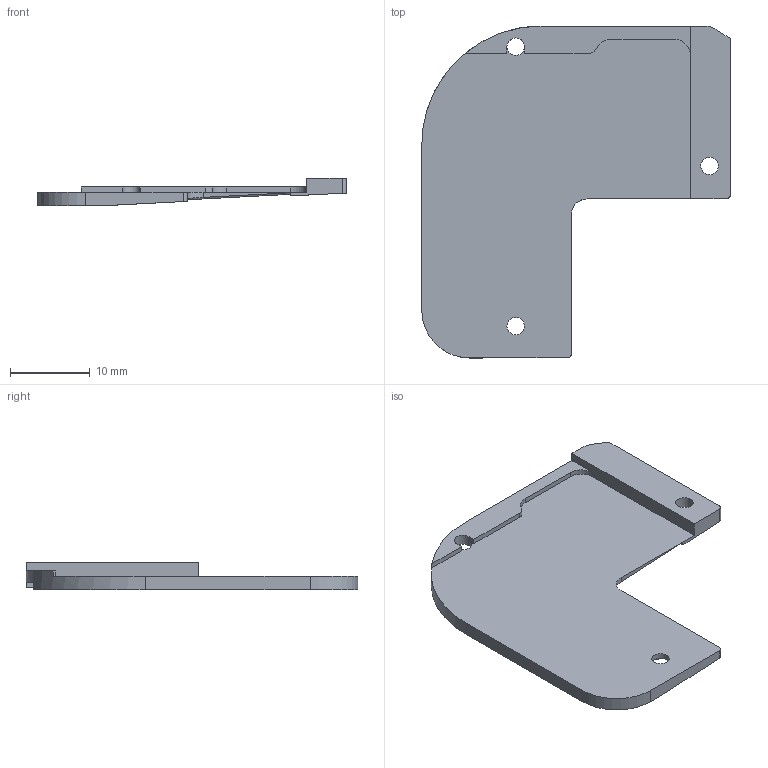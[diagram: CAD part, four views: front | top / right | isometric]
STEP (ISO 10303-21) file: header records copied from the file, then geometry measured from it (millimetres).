
FILE_DESCRIPTION (( 'STEP AP214' ), '1' );
FILE_NAME ('LnG5_heater_cover_r17.STEP', '2021-12-10T00:41:22', ( '' ), ( '' ), 'SwSTEP 2.0', 'SolidWorks 2019', '' );
FILE_SCHEMA (( 'AUTOMOTIVE_DESIGN' ));
Length unit declared in the file: millimetre
Products named in the file (1): LnG5_heater_cover_r17
Bounding box: 38.8 x 41.74 x 3.52 mm (x, y, z)
Volume: 1541.3 mm3; surface area: 2642.5 mm2
Topology: 1 solids, 1 shells, 43 faces, 119 edges, 79 vertices
Faces by surface type: plane 27, cylinder 15, bspline 1
Full cylindrical faces by diameter (mm): 2.2 x3, 4 x2
Entity records: 1513 total; most frequent: CARTESIAN_POINT 400, ORIENTED_EDGE 226, DIRECTION 213, EDGE_CURVE 113, VERTEX_POINT 78, VECTOR 75, LINE 75, AXIS2_PLACEMENT_3D 69
